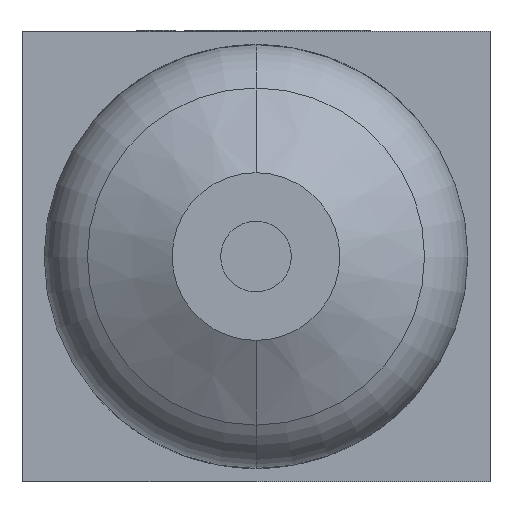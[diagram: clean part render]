
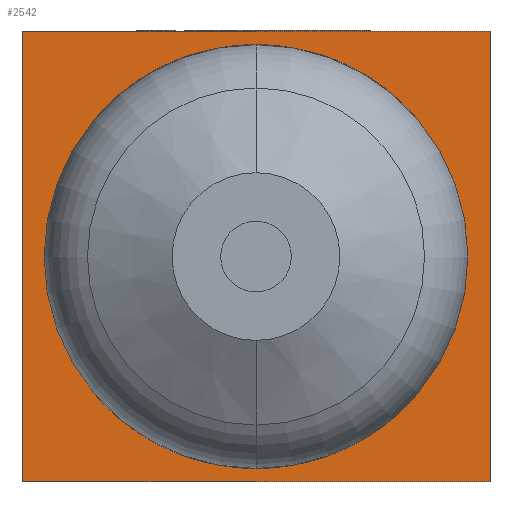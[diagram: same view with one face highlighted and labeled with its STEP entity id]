
A CAD part, front view. The second image highlights one B-rep face of the part: STEP entity #2542.
In plain terms, the highlighted planar face has unit normal (0, -1, 0).
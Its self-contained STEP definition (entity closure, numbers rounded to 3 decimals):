
#242 = DIRECTION ( 'NONE',  ( -1., 0., 0. ) ) ;
#316 = PLANE ( 'NONE',  #2867 ) ;
#518 = VECTOR ( 'NONE', #5393, 1000. ) ;
#713 = DIRECTION ( 'NONE',  ( 1., 0., 0. ) ) ;
#740 = ORIENTED_EDGE ( 'NONE', *, *, #3431, .F. ) ;
#888 = VECTOR ( 'NONE', #5073, 1000. ) ;
#959 = VERTEX_POINT ( 'NONE', #3165 ) ;
#1461 = EDGE_LOOP ( 'NONE', ( #3024, #740, #7541, #4724 ) ) ;
#1491 = LINE ( 'NONE', #1586, #9677 ) ;
#1518 = FACE_OUTER_BOUND ( 'NONE', #1461, .T. ) ;
#1586 = CARTESIAN_POINT ( 'NONE',  ( -26.5, -25.5, 25.5 ) ) ;
#1786 = CARTESIAN_POINT ( 'NONE',  ( 26.5, -25.5, 25.5 ) ) ;
#1913 = CARTESIAN_POINT ( 'NONE',  ( -26.5, -25.5, 25.5 ) ) ;
#2542 = ADVANCED_FACE ( 'NONE', ( #1518 ), #316, .F. ) ;
#2867 = AXIS2_PLACEMENT_3D ( 'NONE', #1913, #3489, #242 ) ;
#3024 = ORIENTED_EDGE ( 'NONE', *, *, #3309, .T. ) ;
#3165 = CARTESIAN_POINT ( 'NONE',  ( 26.5, -25.5, -25.5 ) ) ;
#3309 = EDGE_CURVE ( 'NONE', #6005, #959, #8088, .T. ) ;
#3431 = EDGE_CURVE ( 'NONE', #9905, #959, #8591, .T. ) ;
#3489 = DIRECTION ( 'NONE',  ( 0., 1., 0. ) ) ;
#4724 = ORIENTED_EDGE ( 'NONE', *, *, #7285, .T. ) ;
#4754 = DIRECTION ( 'NONE',  ( 1., 0., 0. ) ) ;
#4991 = LINE ( 'NONE', #6054, #518 ) ;
#5073 = DIRECTION ( 'NONE',  ( 0., 0., -1. ) ) ;
#5393 = DIRECTION ( 'NONE',  ( 0., 0., -1. ) ) ;
#5523 = CARTESIAN_POINT ( 'NONE',  ( -26.5, -25.5, -25.5 ) ) ;
#6005 = VERTEX_POINT ( 'NONE', #9829 ) ;
#6054 = CARTESIAN_POINT ( 'NONE',  ( -26.5, -25.5, 25.5 ) ) ;
#6066 = VERTEX_POINT ( 'NONE', #7269 ) ;
#6963 = VECTOR ( 'NONE', #4754, 1000. ) ;
#7269 = CARTESIAN_POINT ( 'NONE',  ( -26.5, -25.5, 25.5 ) ) ;
#7285 = EDGE_CURVE ( 'NONE', #6066, #6005, #4991, .T. ) ;
#7541 = ORIENTED_EDGE ( 'NONE', *, *, #9538, .F. ) ;
#8088 = LINE ( 'NONE', #5523, #6963 ) ;
#8591 = LINE ( 'NONE', #9839, #888 ) ;
#9538 = EDGE_CURVE ( 'NONE', #6066, #9905, #1491, .T. ) ;
#9677 = VECTOR ( 'NONE', #713, 1000. ) ;
#9829 = CARTESIAN_POINT ( 'NONE',  ( -26.5, -25.5, -25.5 ) ) ;
#9839 = CARTESIAN_POINT ( 'NONE',  ( 26.5, -25.5, 25.5 ) ) ;
#9905 = VERTEX_POINT ( 'NONE', #1786 ) ;
